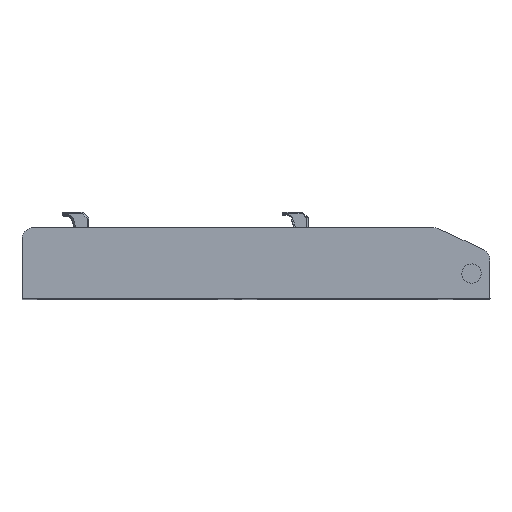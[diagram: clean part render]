
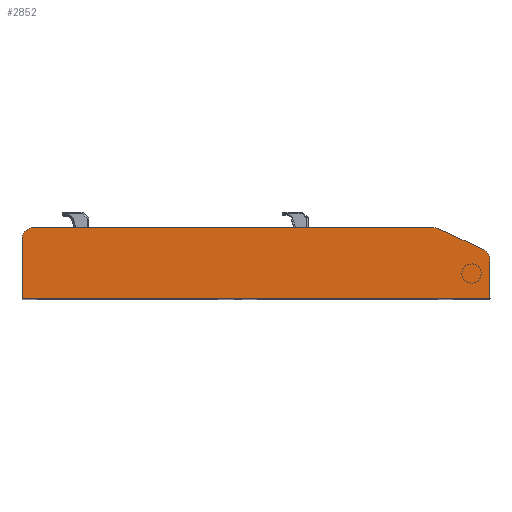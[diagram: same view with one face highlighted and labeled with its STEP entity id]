
A CAD part, top view. The second image highlights one B-rep face of the part: STEP entity #2852.
In plain terms, the highlighted planar face has unit normal (0, 0, 1).
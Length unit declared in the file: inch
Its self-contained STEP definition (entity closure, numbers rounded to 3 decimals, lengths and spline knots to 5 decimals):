
#2289=CARTESIAN_POINT('',(19.30149,-0.95042,-1.64463));
#2290=VERTEX_POINT('',#2289);
#2305=CARTESIAN_POINT('',(17.85095,-0.27401,-1.64463));
#2306=VERTEX_POINT('',#2305);
#2313=CARTESIAN_POINT('',(19.30149,-0.95042,-1.64463));
#2314=DIRECTION('',(-0.906,0.423,0.));
#2315=VECTOR('',#2314,1.6005);
#2316=LINE('',#2313,#2315);
#2317=EDGE_CURVE('',#2290,#2306,#2316,.T.);
#2451=CARTESIAN_POINT('',(19.51801,-2.55138,-1.64463));
#2452=VERTEX_POINT('',#2451);
#2459=CARTESIAN_POINT('',(4.33051,-2.55138,-1.64463));
#2460=VERTEX_POINT('',#2459);
#2461=CARTESIAN_POINT('',(19.51801,-2.55138,-1.64463));
#2462=DIRECTION('',(-1.0,0.0,0.0));
#2463=VECTOR('',#2462,15.1875);
#2464=LINE('',#2461,#2463);
#2465=EDGE_CURVE('',#2452,#2460,#2464,.T.);
#2761=CARTESIAN_POINT('',(19.51801,-1.29028,-1.64463));
#2762=VERTEX_POINT('',#2761);
#2771=CARTESIAN_POINT('',(19.51801,-1.29028,-1.64463));
#2772=DIRECTION('',(0.0,-1.0,0.0));
#2773=VECTOR('',#2772,1.2611);
#2774=LINE('',#2771,#2773);
#2775=EDGE_CURVE('',#2762,#2452,#2774,.T.);
#2803=CARTESIAN_POINT('',(11.92426,-1.39513,-1.64463));
#2804=DIRECTION('',(0.0,0.0,1.0));
#2805=DIRECTION('',(1.0,0.0,0.0));
#2806=AXIS2_PLACEMENT_3D('',#2803,#2804,#2805);
#2807=PLANE('',#2806);
#2808=CARTESIAN_POINT('',(4.33051,-0.61388,-1.64463));
#2809=VERTEX_POINT('',#2808);
#2810=CARTESIAN_POINT('',(4.70551,-0.23888,-1.64463));
#2811=VERTEX_POINT('',#2810);
#2812=CARTESIAN_POINT('',(4.70551,-0.61388,-1.64463));
#2813=DIRECTION('',(0.,0.,-1.0));
#2814=DIRECTION('',(-0.707,0.707,0.));
#2815=AXIS2_PLACEMENT_3D('',#2812,#2813,#2814);
#2816=CIRCLE('',#2815,0.375);
#2817=EDGE_CURVE('',#2809,#2811,#2816,.T.);
#2818=ORIENTED_EDGE('',*,*,#2817,.F.);
#2819=CARTESIAN_POINT('',(4.33051,-2.55138,-1.64463));
#2820=DIRECTION('',(0.0,1.0,0.0));
#2821=VECTOR('',#2820,1.9375);
#2822=LINE('',#2819,#2821);
#2823=EDGE_CURVE('',#2460,#2809,#2822,.T.);
#2824=ORIENTED_EDGE('',*,*,#2823,.F.);
#2825=ORIENTED_EDGE('',*,*,#2465,.F.);
#2826=ORIENTED_EDGE('',*,*,#2775,.F.);
#2827=CARTESIAN_POINT('',(19.14301,-1.29028,-1.64463));
#2828=DIRECTION('',(0.,0.,-1.0));
#2829=DIRECTION('',(0.843,0.537,0.));
#2830=AXIS2_PLACEMENT_3D('',#2827,#2828,#2829);
#2831=CIRCLE('',#2830,0.375);
#2832=EDGE_CURVE('',#2290,#2762,#2831,.T.);
#2833=ORIENTED_EDGE('',*,*,#2832,.F.);
#2834=ORIENTED_EDGE('',*,*,#2317,.T.);
#2835=CARTESIAN_POINT('',(17.69247,-0.23888,-1.64463));
#2836=VERTEX_POINT('',#2835);
#2837=CARTESIAN_POINT('',(17.69247,-0.61388,-1.64463));
#2838=DIRECTION('',(0.,0.,-1.));
#2839=DIRECTION('',(0.216,0.976,0.));
#2840=AXIS2_PLACEMENT_3D('',#2837,#2838,#2839);
#2841=CIRCLE('',#2840,0.375);
#2842=EDGE_CURVE('',#2836,#2306,#2841,.T.);
#2843=ORIENTED_EDGE('',*,*,#2842,.F.);
#2844=CARTESIAN_POINT('',(4.70551,-0.23888,-1.64463));
#2845=DIRECTION('',(1.0,0.0,0.0));
#2846=VECTOR('',#2845,12.98695);
#2847=LINE('',#2844,#2846);
#2848=EDGE_CURVE('',#2811,#2836,#2847,.T.);
#2849=ORIENTED_EDGE('',*,*,#2848,.F.);
#2850=EDGE_LOOP('',(#2818,#2824,#2825,#2826,#2833,#2834,#2843,#2849));
#2851=FACE_OUTER_BOUND('',#2850,.T.);
#2852=ADVANCED_FACE('',(#2851),#2807,.T.);
